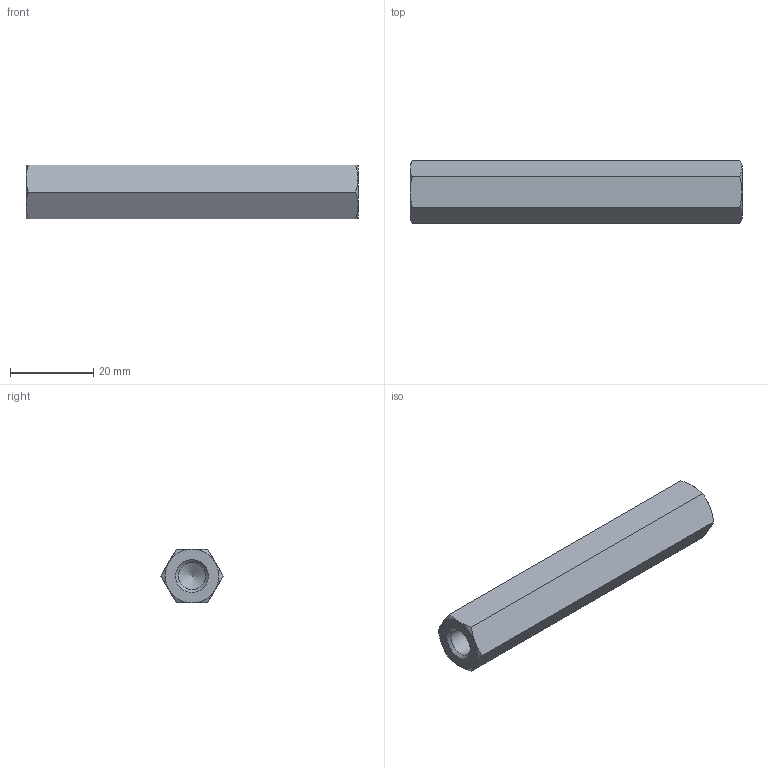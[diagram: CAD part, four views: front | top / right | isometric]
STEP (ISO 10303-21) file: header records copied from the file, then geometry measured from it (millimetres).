
FILE_DESCRIPTION( ( 'STEP AP203' ), '1' );
FILE_NAME( 'C:/Temp/Ganter_Step_05_03_2020/data/3_2/gn6220/gn6220_st/Spacer GN 6220-ST-M8-80-A.stp', '2020-03-13T05:42:34', ( 'License CC BY-ND 4.0' ), ( 'CADENAS' ), ' ', 'PARTsolutions', ' ' );
FILE_SCHEMA( ( 'CONFIG_CONTROL_DESIGN' ) );
Length unit declared in the file: millimetre
Products named in the file (1): _Spacer GN 6220-ST-M8-80-A
Bounding box: 80 x 15.01 x 13 mm (x, y, z)
Volume: 10245.6 mm3; surface area: 4721.5 mm2
Topology: 1 solids, 1 shells, 26 faces, 57 edges, 33 vertices
Faces by surface type: cone 16, plane 8, cylinder 2
Full cylindrical faces by diameter (mm): 6.647 x2
Entity records: 782 total; most frequent: CARTESIAN_POINT 243, DIRECTION 96, ORIENTED_EDGE 96, EDGE_CURVE 48, AXIS2_PLACEMENT_3D 45, EDGE_LOOP 32, VERTEX_POINT 32, FACE_OUTER_BOUND 28
